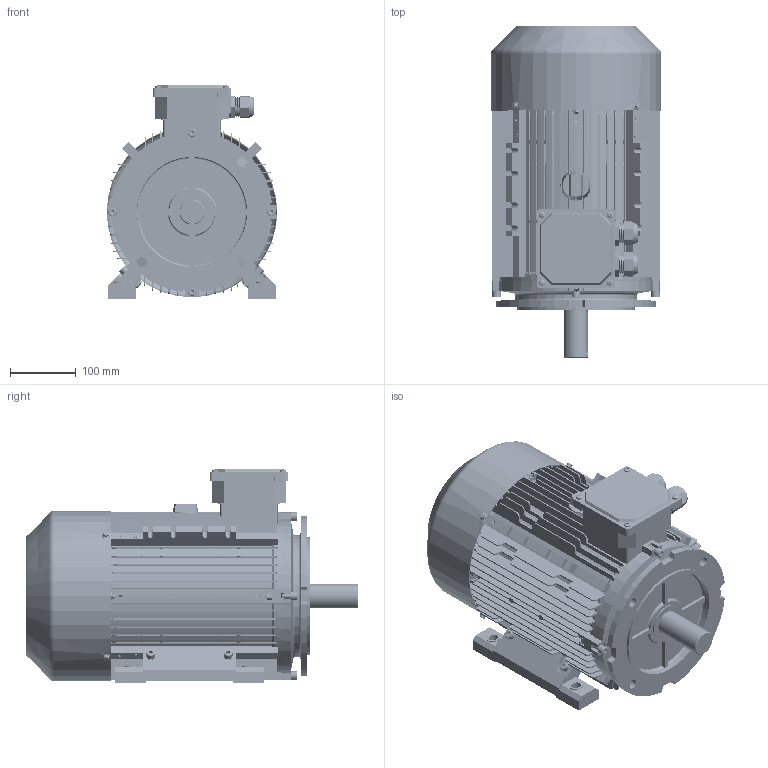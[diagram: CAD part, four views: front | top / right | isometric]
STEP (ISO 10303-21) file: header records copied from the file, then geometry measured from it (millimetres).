
FILE_DESCRIPTION (( 'STEP AP203' ), '1' );
FILE_NAME ('ME3-132M B35R 3D.STEP', '2024-07-27T02:11:48', ( 'User' ), ( 'China' ), 'SwSTEP 2.0', 'SolidWorks 2018', '' );
FILE_SCHEMA (( 'CONFIG_CONTROL_DESIGN' ));
Length unit declared in the file: millimetre
Products named in the file (19): cross recessed pan head screws gb_GB_CROSS_SCREWS_TYPE1 M5X6-6  H type-S; M24 蹟杶簸; 40X58X7蚐猾; spring lock washers--normal type gb_GB_FASTENER_WASHER_SW 8; ME3-132M儂褲; ME3-132B5R傷裔; hexagon socket head cap screws gb_GB_FASTENER_SCREWS_HSHCS M8X30-S; ME3-132M菁褐; ME3-132M B35R  3D; hexagon socket head cap screws gb_GB_FASTENER_SCREWS_HSHCS M8X40-S; ME3-132 B3傷裔; hex nuts-style normal-grades ab gb_GB_HEXAGON_TYPE10 M8X1-S; deep groove ball bearings gb_Rolling bearings 6308 GB 276-94; ME3-132瑞欶; ME3-132M蛌粣; hex flange bolts-heavy grade b gb_GB_FASTENER_BOLT_HFBB M5X10-S; MS112-132 諉盄碟釱; MS112-132諉盄碟裔; M24 蹟杶
Assembly tree (51 placements, depth 2):
  ME3-132M B35R  3D
    ME3-132M儂褲
    ME3-132M菁褐  x2
    ME3-132 B3傷裔
    deep groove ball bearings gb_Rolling bearings 6308 GB 276-94  x2
    ME3-132M蛌粣
    MS112-132 諉盄碟釱
    M24 蹟杶  x2
    M24 蹟杶簸  x2
    spring lock washers--normal type gb_GB_FASTENER_WASHER_SW 8  x4
    hexagon socket head cap screws gb_GB_FASTENER_SCREWS_HSHCS M8X30-S  x5
    hexagon socket head cap screws gb_GB_FASTENER_SCREWS_HSHCS M8X40-S  x7
    hex nuts-style normal-grades ab gb_GB_HEXAGON_TYPE10 M8X1-S  x11
    ME3-132瑞欶
    hex flange bolts-heavy grade b gb_GB_FASTENER_BOLT_HFBB M5X10-S  x4
    MS112-132諉盄碟裔
    cross recessed pan head screws gb_GB_CROSS_SCREWS_TYPE1 M5X6-6  H type-S  x4
    40X58X7蚐猾
    ME3-132B5R傷裔
Bounding box: 259.6 x 505.15 x 325 mm (x, y, z)
Volume: 4067948.7 mm3; surface area: 1940027.8 mm2
Topology: 52 solids, 53 shells, 7986 faces, 19575 edges, 11676 vertices
Faces by surface type: cone 2849, plane 2526, cylinder 2257, torus 240, sphere 68, bspline 46
Entity records: 139793 total; most frequent: CARTESIAN_POINT 35384, ORIENTED_EDGE 21870, DIRECTION 20367, EDGE_CURVE 10935, VERTEX_POINT 6998, VECTOR 6847, LINE 6847, AXIS2_PLACEMENT_3D 6760
